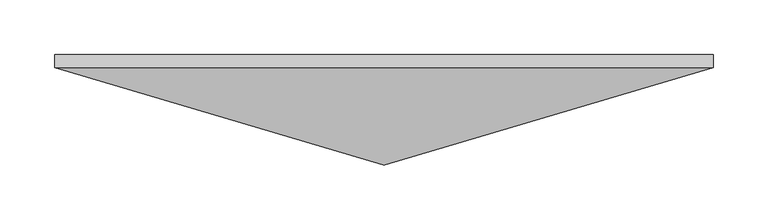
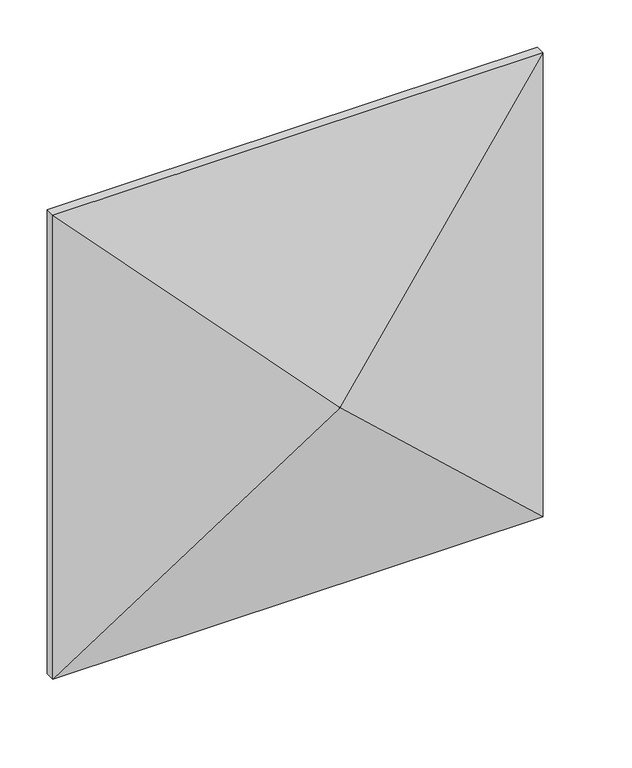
"""IFC4 building model written with IfcOpenShell, lengths in millimetres: plate geometry, Offecct - Spiegel Curtain Panel - Low : Offecct - Spiegel Curtain Panel - Low."""

from ifc_helpers import new_model, si_unit, origin, place, context, project, spatial, faceted_brep, source, transform, mapped, element, save


def plate_2ed3a2ff(model_context):
    return source(origin(), model_context, "Body", "Brep", [
        faceted_brep([(0.5, -100.6580242, 300.5), (-0.5, -100.6580242, 300.5), (-0.5, -100.6580242, 299.5), (0.5, -100.6580242, 299.5), (300.0, -11.5689886, 600.0), (-300.0, -11.5689886, 600.0), (-300.0, -11.5689886, 0.0), (300.0, -11.5689886, 0.0), (300.0, 0.0, 600.0), (-300.0, 0.0, 600.0), (300.0, 0.0, 0.0), (-300.0, 0.0, 0.0)], [[[0, 1, 2, 3]], [[1, 0, 4, 5]], [[2, 1, 5, 6]], [[3, 2, 6, 7]], [[0, 3, 7, 4]], [[8, 9, 5, 4]], [[10, 7, 6, 11]], [[9, 8, 10, 11]], [[5, 9, 11, 6]], [[8, 4, 7, 10]]]),
    ])


if __name__ == "__main__":
    model = new_model("IFC4")
    model_context = context("Model", 3, world=origin())
    ifc_project = project(units=[si_unit("LENGTHUNIT", "METRE", prefix="MILLI")], contexts=[model_context])
    site = spatial("IfcSite", under=ifc_project)
    building = spatial("IfcBuilding", under=site)
    placement = place(None, origin())
    plate_shape = plate_2ed3a2ff(model_context)
    element("IfcPlate", 1, ObjectType="Offecct - Spiegel Curtain Panel - Low : Offecct - Spiegel Curtain Panel - Low", at=placement, inside=building, context=model_context, shape_type="MappedRepresentation", body=[
        mapped(plate_shape, transform((0.0, 0.0, 0.0), x_axis=(1.0, 0.0, 0.0), y_axis=(0.0, 1.0, 0.0), z_axis=(0.0, 0.0, 1.0))),
    ])
    save(model, "model.ifc")
